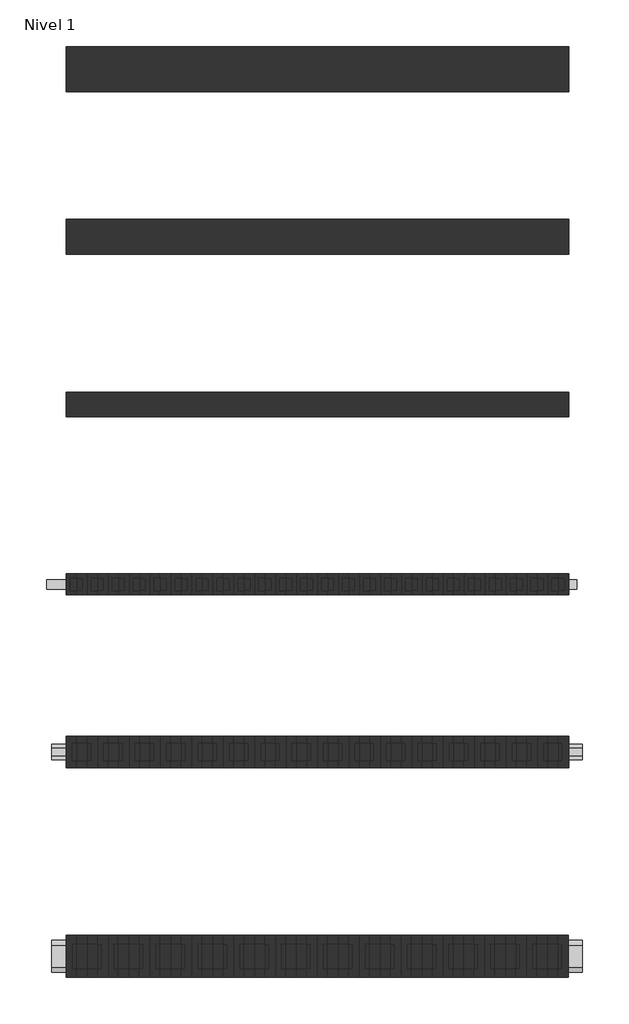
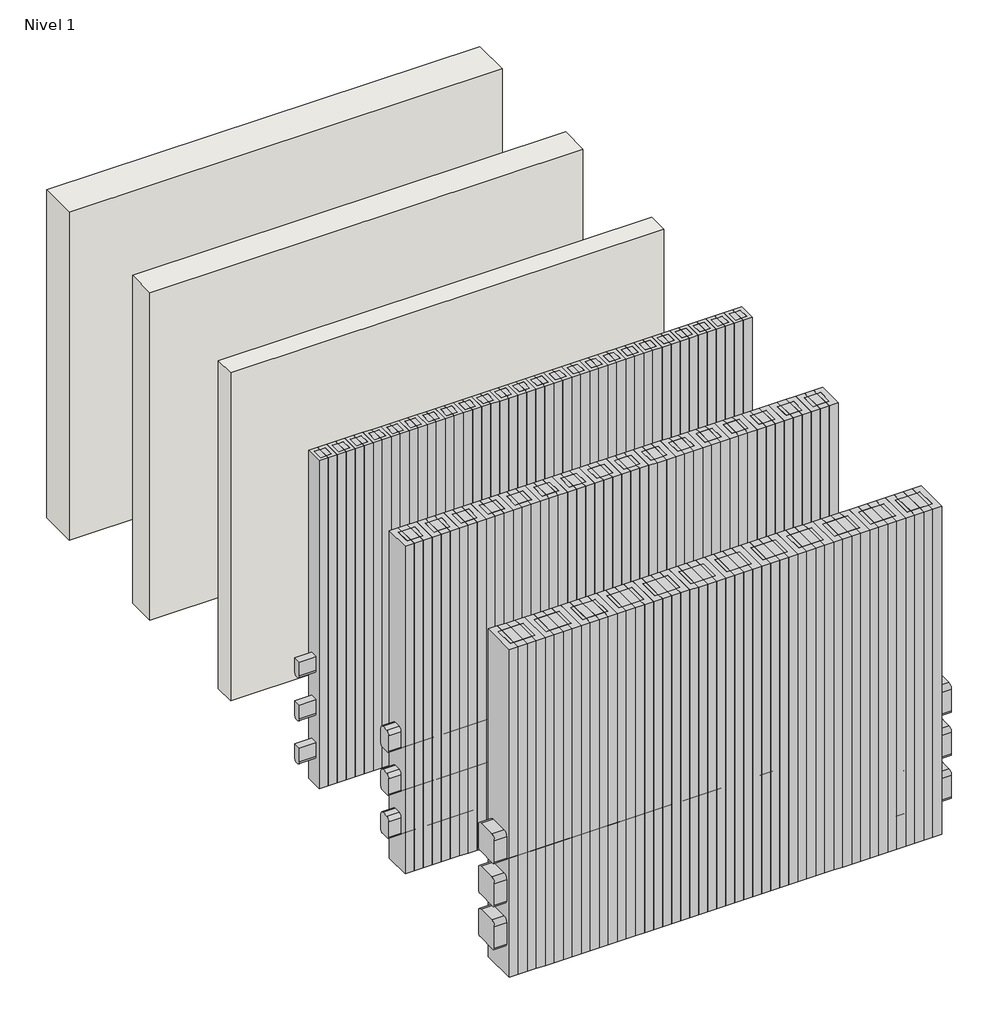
# One storey: 52 columns, 9 beams, 3 walls.
"""IFC4 building model written with IfcOpenShell, lengths in millimetres."""

from ifc_helpers import new_model, si_unit, origin, origin_with_axes, place, context, project, spatial, polyline, outline, extrude, transform, mapped, element, save
from components import vigueta_ladrillo_12_c73e1c85, vigueta_ladrillo_18_f427e08d, vigueta_ladrillo_25_3ea38565, ladrillo_12_2_2_d45fb763, ladrillo_18_3_3_ef613456, ladrillo_25_4_4_74b77b86

model = new_model("IFC4")

# Units and contexts
model_context = context("Model", 3, world=origin())
ifc_project = project(units=[si_unit("LENGTHUNIT", "METRE", prefix="MILLI")], contexts=[model_context])

# Site, building, storey
site = spatial("IfcSite", under=ifc_project)
building = spatial("IfcBuilding", under=site)
storey = spatial("IfcBuildingStorey", under=building, Name="Nivel 1", Elevation=0.0)

# Beams
placement = place(None, origin())
vigueta_ladrillo_12_shape = vigueta_ladrillo_12_c73e1c85(model_context)
element("IfcBeam", 1, ObjectType="Vigueta Ladrillo 12 : Ladrillo Exacta 12", at=placement, inside=storey, context=model_context, shape_type="MappedRepresentation", body=[
    mapped(vigueta_ladrillo_12_shape, transform((-4170.33894, 10977.2625708, 251.6), x_axis=(1.0, 0.0, 0.0), y_axis=(0.0, 1.0, 0.0), z_axis=(0.0, 0.0, 1.0))),
])
element("IfcBeam", 2, ObjectType="Vigueta Ladrillo 12 : Ladrillo Exacta 12", at=placement, inside=storey, context=model_context, shape_type="MappedRepresentation", body=[
    mapped(vigueta_ladrillo_12_shape, transform((-4170.33894, 10977.2625708, 566.6), x_axis=(1.0, 0.0, 0.0), y_axis=(0.0, 1.0, 0.0), z_axis=(0.0, 0.0, 1.0))),
])
element("IfcBeam", 3, ObjectType="Vigueta Ladrillo 12 : Ladrillo Exacta 12", at=placement, inside=storey, context=model_context, shape_type="MappedRepresentation", body=[
    mapped(vigueta_ladrillo_12_shape, transform((-4170.33894, 10977.2625708, 881.6), x_axis=(1.0, 0.0, 0.0), y_axis=(0.0, 1.0, 0.0), z_axis=(0.0, 0.0, 1.0))),
])
vigueta_ladrillo_18_shape = vigueta_ladrillo_18_f427e08d(model_context)
element("IfcBeam", 4, ObjectType="Vigueta Ladrillo 18 : Ladrillo Exacta 18", at=placement, inside=storey, context=model_context, shape_type="MappedRepresentation", body=[
    mapped(vigueta_ladrillo_18_shape, transform((-4139.08894, 9977.2625708, 332.5), x_axis=(1.0, 0.0, 0.0), y_axis=(0.0, 1.0, 0.0), z_axis=(0.0, 0.0, 1.0))),
])
element("IfcBeam", 5, ObjectType="Vigueta Ladrillo 18 : Ladrillo Exacta 18", at=placement, inside=storey, context=model_context, shape_type="MappedRepresentation", body=[
    mapped(vigueta_ladrillo_18_shape, transform((-4139.08894, 9977.2625708, 647.5), x_axis=(1.0, 0.0, 0.0), y_axis=(0.0, 1.0, 0.0), z_axis=(0.0, 0.0, 1.0))),
])
element("IfcBeam", 6, ObjectType="Vigueta Ladrillo 18 : Ladrillo Exacta 18", at=placement, inside=storey, context=model_context, shape_type="MappedRepresentation", body=[
    mapped(vigueta_ladrillo_18_shape, transform((-4139.08894, 9977.2625708, 962.5), x_axis=(1.0, 0.0, 0.0), y_axis=(0.0, 1.0, 0.0), z_axis=(0.0, 0.0, 1.0))),
])
vigueta_ladrillo_25_shape = vigueta_ladrillo_25_3ea38565(model_context)
element("IfcBeam", 7, ObjectType="Vigueta Ladrillo 25 : Ladrillo Exacta 25", at=placement, inside=storey, context=model_context, shape_type="MappedRepresentation", body=[
    mapped(vigueta_ladrillo_25_shape, transform((-4139.08894, 8758.4418251, 311.4), x_axis=(1.0, 0.0, 0.0), y_axis=(0.0, 1.0, 0.0), z_axis=(0.0, 0.0, 1.0))),
])
element("IfcBeam", 8, ObjectType="Vigueta Ladrillo 25 : Ladrillo Exacta 25", at=placement, inside=storey, context=model_context, shape_type="MappedRepresentation", body=[
    mapped(vigueta_ladrillo_25_shape, transform((-4139.08894, 8758.4418251, 626.4), x_axis=(1.0, 0.0, 0.0), y_axis=(0.0, 1.0, 0.0), z_axis=(0.0, 0.0, 1.0))),
])
element("IfcBeam", 9, ObjectType="Vigueta Ladrillo 25 : Ladrillo Exacta 25", at=placement, inside=storey, context=model_context, shape_type="MappedRepresentation", body=[
    mapped(vigueta_ladrillo_25_shape, transform((-4139.08894, 8758.4418251, 941.4), x_axis=(1.0, 0.0, 0.0), y_axis=(0.0, 1.0, 0.0), z_axis=(0.0, 0.0, 1.0))),
])

# Columns
ladrillo_12_2_2_shape = ladrillo_12_2_2_d45fb763(model_context)
element("IfcColumn", 10, ObjectType="Ladrillo 12 : 2/2", at=placement, inside=storey, context=model_context, shape_type="MappedRepresentation", body=[
    mapped(ladrillo_12_2_2_shape, transform((-5573.620702, 10977.2625708, 0.0), x_axis=(-1.0, 0.0, 0.0), y_axis=(0.0, -1.0, 0.0), z_axis=(0.0, 0.0, 1.0))),
])
element("IfcColumn", 11, ObjectType="Ladrillo 12 : 2/2", at=placement, inside=storey, context=model_context, shape_type="MappedRepresentation", body=[
    mapped(ladrillo_12_2_2_shape, transform((-5448.620702, 10977.2625708, 0.0), x_axis=(-1.0, 0.0, 0.0), y_axis=(0.0, -1.0, 0.0), z_axis=(0.0, 0.0, 1.0))),
])
element("IfcColumn", 12, ObjectType="Ladrillo 12 : 2/2", at=placement, inside=storey, context=model_context, shape_type="MappedRepresentation", body=[
    mapped(ladrillo_12_2_2_shape, transform((-5323.620702, 10977.2625708, 0.0), x_axis=(-1.0, 0.0, 0.0), y_axis=(0.0, -1.0, 0.0), z_axis=(0.0, 0.0, 1.0))),
])
element("IfcColumn", 13, ObjectType="Ladrillo 12 : 2/2", at=placement, inside=storey, context=model_context, shape_type="MappedRepresentation", body=[
    mapped(ladrillo_12_2_2_shape, transform((-5198.620702, 10977.2625708, 0.0), x_axis=(-1.0, 0.0, 0.0), y_axis=(0.0, -1.0, 0.0), z_axis=(0.0, 0.0, 1.0))),
])
element("IfcColumn", 14, ObjectType="Ladrillo 12 : 2/2", at=placement, inside=storey, context=model_context, shape_type="MappedRepresentation", body=[
    mapped(ladrillo_12_2_2_shape, transform((-5073.620702, 10977.2625708, 0.0), x_axis=(-1.0, 0.0, 0.0), y_axis=(0.0, -1.0, 0.0), z_axis=(0.0, 0.0, 1.0))),
])
element("IfcColumn", 15, ObjectType="Ladrillo 12 : 2/2", at=placement, inside=storey, context=model_context, shape_type="MappedRepresentation", body=[
    mapped(ladrillo_12_2_2_shape, transform((-4948.620702, 10977.2625708, 0.0), x_axis=(-1.0, 0.0, 0.0), y_axis=(0.0, -1.0, 0.0), z_axis=(0.0, 0.0, 1.0))),
])
element("IfcColumn", 16, ObjectType="Ladrillo 12 : 2/2", at=placement, inside=storey, context=model_context, shape_type="MappedRepresentation", body=[
    mapped(ladrillo_12_2_2_shape, transform((-4823.620702, 10977.2625708, 0.0), x_axis=(-1.0, 0.0, 0.0), y_axis=(0.0, -1.0, 0.0), z_axis=(0.0, 0.0, 1.0))),
])
element("IfcColumn", 17, ObjectType="Ladrillo 12 : 2/2", at=placement, inside=storey, context=model_context, shape_type="MappedRepresentation", body=[
    mapped(ladrillo_12_2_2_shape, transform((-4698.620702, 10977.2625708, 0.0), x_axis=(-1.0, 0.0, 0.0), y_axis=(0.0, -1.0, 0.0), z_axis=(0.0, 0.0, 1.0))),
])
element("IfcColumn", 18, ObjectType="Ladrillo 12 : 2/2", at=placement, inside=storey, context=model_context, shape_type="MappedRepresentation", body=[
    mapped(ladrillo_12_2_2_shape, transform((-4573.620702, 10977.2625708, 0.0), x_axis=(-1.0, 0.0, 0.0), y_axis=(0.0, -1.0, 0.0), z_axis=(0.0, 0.0, 1.0))),
])
element("IfcColumn", 19, ObjectType="Ladrillo 12 : 2/2", at=placement, inside=storey, context=model_context, shape_type="MappedRepresentation", body=[
    mapped(ladrillo_12_2_2_shape, transform((-4448.620702, 10977.2625708, 0.0), x_axis=(-1.0, 0.0, 0.0), y_axis=(0.0, -1.0, 0.0), z_axis=(0.0, 0.0, 1.0))),
])
element("IfcColumn", 20, ObjectType="Ladrillo 12 : 2/2", at=placement, inside=storey, context=model_context, shape_type="MappedRepresentation", body=[
    mapped(ladrillo_12_2_2_shape, transform((-4323.620702, 10977.2625708, 0.0), x_axis=(-1.0, 0.0, 0.0), y_axis=(0.0, -1.0, 0.0), z_axis=(0.0, 0.0, 1.0))),
])
element("IfcColumn", 21, ObjectType="Ladrillo 12 : 2/2", at=placement, inside=storey, context=model_context, shape_type="MappedRepresentation", body=[
    mapped(ladrillo_12_2_2_shape, transform((-4198.620702, 10977.2625708, 0.0), x_axis=(-1.0, 0.0, 0.0), y_axis=(0.0, -1.0, 0.0), z_axis=(0.0, 0.0, 1.0))),
])
element("IfcColumn", 22, ObjectType="Ladrillo 12 : 2/2", at=placement, inside=storey, context=model_context, shape_type="MappedRepresentation", body=[
    mapped(ladrillo_12_2_2_shape, transform((-4073.620702, 10977.2625708, 0.0), x_axis=(-1.0, 0.0, 0.0), y_axis=(0.0, -1.0, 0.0), z_axis=(0.0, 0.0, 1.0))),
])
element("IfcColumn", 23, ObjectType="Ladrillo 12 : 2/2", at=placement, inside=storey, context=model_context, shape_type="MappedRepresentation", body=[
    mapped(ladrillo_12_2_2_shape, transform((-3948.620702, 10977.2625708, 0.0), x_axis=(-1.0, 0.0, 0.0), y_axis=(0.0, -1.0, 0.0), z_axis=(0.0, 0.0, 1.0))),
])
element("IfcColumn", 24, ObjectType="Ladrillo 12 : 2/2", at=placement, inside=storey, context=model_context, shape_type="MappedRepresentation", body=[
    mapped(ladrillo_12_2_2_shape, transform((-3823.620702, 10977.2625708, 0.0), x_axis=(-1.0, 0.0, 0.0), y_axis=(0.0, -1.0, 0.0), z_axis=(0.0, 0.0, 1.0))),
])
element("IfcColumn", 25, ObjectType="Ladrillo 12 : 2/2", at=placement, inside=storey, context=model_context, shape_type="MappedRepresentation", body=[
    mapped(ladrillo_12_2_2_shape, transform((-3698.620702, 10977.2625708, 0.0), x_axis=(-1.0, 0.0, 0.0), y_axis=(0.0, -1.0, 0.0), z_axis=(0.0, 0.0, 1.0))),
])
element("IfcColumn", 26, ObjectType="Ladrillo 12 : 2/2", at=placement, inside=storey, context=model_context, shape_type="MappedRepresentation", body=[
    mapped(ladrillo_12_2_2_shape, transform((-3573.620702, 10977.2625708, 0.0), x_axis=(-1.0, 0.0, 0.0), y_axis=(0.0, -1.0, 0.0), z_axis=(0.0, 0.0, 1.0))),
])
element("IfcColumn", 27, ObjectType="Ladrillo 12 : 2/2", at=placement, inside=storey, context=model_context, shape_type="MappedRepresentation", body=[
    mapped(ladrillo_12_2_2_shape, transform((-3448.620702, 10977.2625708, 0.0), x_axis=(-1.0, 0.0, 0.0), y_axis=(0.0, -1.0, 0.0), z_axis=(0.0, 0.0, 1.0))),
])
element("IfcColumn", 28, ObjectType="Ladrillo 12 : 2/2", at=placement, inside=storey, context=model_context, shape_type="MappedRepresentation", body=[
    mapped(ladrillo_12_2_2_shape, transform((-3323.620702, 10977.2625708, 0.0), x_axis=(-1.0, 0.0, 0.0), y_axis=(0.0, -1.0, 0.0), z_axis=(0.0, 0.0, 1.0))),
])
element("IfcColumn", 29, ObjectType="Ladrillo 12 : 2/2", at=placement, inside=storey, context=model_context, shape_type="MappedRepresentation", body=[
    mapped(ladrillo_12_2_2_shape, transform((-3198.620702, 10977.2625708, 0.0), x_axis=(-1.0, 0.0, 0.0), y_axis=(0.0, -1.0, 0.0), z_axis=(0.0, 0.0, 1.0))),
])
element("IfcColumn", 30, ObjectType="Ladrillo 12 : 2/2", at=placement, inside=storey, context=model_context, shape_type="MappedRepresentation", body=[
    mapped(ladrillo_12_2_2_shape, transform((-3073.620702, 10977.2625708, 0.0), x_axis=(-1.0, 0.0, 0.0), y_axis=(0.0, -1.0, 0.0), z_axis=(0.0, 0.0, 1.0))),
])
element("IfcColumn", 31, ObjectType="Ladrillo 12 : 2/2", at=placement, inside=storey, context=model_context, shape_type="MappedRepresentation", body=[
    mapped(ladrillo_12_2_2_shape, transform((-2948.620702, 10977.2625708, 0.0), x_axis=(-1.0, 0.0, 0.0), y_axis=(0.0, -1.0, 0.0), z_axis=(0.0, 0.0, 1.0))),
])
element("IfcColumn", 32, ObjectType="Ladrillo 12 : 2/2", at=placement, inside=storey, context=model_context, shape_type="MappedRepresentation", body=[
    mapped(ladrillo_12_2_2_shape, transform((-2823.620702, 10977.2625708, 0.0), x_axis=(-1.0, 0.0, 0.0), y_axis=(0.0, -1.0, 0.0), z_axis=(0.0, 0.0, 1.0))),
])
element("IfcColumn", 33, ObjectType="Ladrillo 12 : 2/2", at=placement, inside=storey, context=model_context, shape_type="MappedRepresentation", body=[
    mapped(ladrillo_12_2_2_shape, transform((-2698.620702, 10977.2625708, 0.0), x_axis=(-1.0, 0.0, 0.0), y_axis=(0.0, -1.0, 0.0), z_axis=(0.0, 0.0, 1.0))),
])
ladrillo_18_3_3_shape = ladrillo_18_3_3_ef613456(model_context)
element("IfcColumn", 34, ObjectType="Ladrillo 18 : 3/3", at=placement, inside=storey, context=model_context, shape_type="MappedRepresentation", body=[
    mapped(ladrillo_18_3_3_shape, transform((-5542.370702, 9977.2625708, 0.0), x_axis=(-1.0, 0.0, 0.0), y_axis=(0.0, -1.0, 0.0), z_axis=(0.0, 0.0, 1.0))),
])
element("IfcColumn", 35, ObjectType="Ladrillo 18 : 3/3", at=placement, inside=storey, context=model_context, shape_type="MappedRepresentation", body=[
    mapped(ladrillo_18_3_3_shape, transform((-5354.870702, 9977.2625708, 0.0), x_axis=(-1.0, 0.0, 0.0), y_axis=(0.0, -1.0, 0.0), z_axis=(0.0, 0.0, 1.0))),
])
element("IfcColumn", 36, ObjectType="Ladrillo 18 : 3/3", at=placement, inside=storey, context=model_context, shape_type="MappedRepresentation", body=[
    mapped(ladrillo_18_3_3_shape, transform((-5167.370702, 9977.2625708, 0.0), x_axis=(-1.0, 0.0, 0.0), y_axis=(0.0, -1.0, 0.0), z_axis=(0.0, 0.0, 1.0))),
])
element("IfcColumn", 37, ObjectType="Ladrillo 18 : 3/3", at=placement, inside=storey, context=model_context, shape_type="MappedRepresentation", body=[
    mapped(ladrillo_18_3_3_shape, transform((-4979.870702, 9977.2625708, 0.0), x_axis=(-1.0, 0.0, 0.0), y_axis=(0.0, -1.0, 0.0), z_axis=(0.0, 0.0, 1.0))),
])
element("IfcColumn", 38, ObjectType="Ladrillo 18 : 3/3", at=placement, inside=storey, context=model_context, shape_type="MappedRepresentation", body=[
    mapped(ladrillo_18_3_3_shape, transform((-4792.370702, 9977.2625708, 0.0), x_axis=(-1.0, 0.0, 0.0), y_axis=(0.0, -1.0, 0.0), z_axis=(0.0, 0.0, 1.0))),
])
element("IfcColumn", 39, ObjectType="Ladrillo 18 : 3/3", at=placement, inside=storey, context=model_context, shape_type="MappedRepresentation", body=[
    mapped(ladrillo_18_3_3_shape, transform((-4604.870702, 9977.2625708, 0.0), x_axis=(-1.0, 0.0, 0.0), y_axis=(0.0, -1.0, 0.0), z_axis=(0.0, 0.0, 1.0))),
])
element("IfcColumn", 40, ObjectType="Ladrillo 18 : 3/3", at=placement, inside=storey, context=model_context, shape_type="MappedRepresentation", body=[
    mapped(ladrillo_18_3_3_shape, transform((-4417.370702, 9977.2625708, 0.0), x_axis=(-1.0, 0.0, 0.0), y_axis=(0.0, -1.0, 0.0), z_axis=(0.0, 0.0, 1.0))),
])
element("IfcColumn", 41, ObjectType="Ladrillo 18 : 3/3", at=placement, inside=storey, context=model_context, shape_type="MappedRepresentation", body=[
    mapped(ladrillo_18_3_3_shape, transform((-4229.870702, 9977.2625708, 0.0), x_axis=(-1.0, 0.0, 0.0), y_axis=(0.0, -1.0, 0.0), z_axis=(0.0, 0.0, 1.0))),
])
element("IfcColumn", 42, ObjectType="Ladrillo 18 : 3/3", at=placement, inside=storey, context=model_context, shape_type="MappedRepresentation", body=[
    mapped(ladrillo_18_3_3_shape, transform((-4042.370702, 9977.2625708, 0.0), x_axis=(-1.0, 0.0, 0.0), y_axis=(0.0, -1.0, 0.0), z_axis=(0.0, 0.0, 1.0))),
])
element("IfcColumn", 43, ObjectType="Ladrillo 18 : 3/3", at=placement, inside=storey, context=model_context, shape_type="MappedRepresentation", body=[
    mapped(ladrillo_18_3_3_shape, transform((-3854.870702, 9977.2625708, 0.0), x_axis=(-1.0, 0.0, 0.0), y_axis=(0.0, -1.0, 0.0), z_axis=(0.0, 0.0, 1.0))),
])
element("IfcColumn", 44, ObjectType="Ladrillo 18 : 3/3", at=placement, inside=storey, context=model_context, shape_type="MappedRepresentation", body=[
    mapped(ladrillo_18_3_3_shape, transform((-3667.370702, 9977.2625708, 0.0), x_axis=(-1.0, 0.0, 0.0), y_axis=(0.0, -1.0, 0.0), z_axis=(0.0, 0.0, 1.0))),
])
element("IfcColumn", 45, ObjectType="Ladrillo 18 : 3/3", at=placement, inside=storey, context=model_context, shape_type="MappedRepresentation", body=[
    mapped(ladrillo_18_3_3_shape, transform((-3479.870702, 9977.2625708, 0.0), x_axis=(-1.0, 0.0, 0.0), y_axis=(0.0, -1.0, 0.0), z_axis=(0.0, 0.0, 1.0))),
])
element("IfcColumn", 46, ObjectType="Ladrillo 18 : 3/3", at=placement, inside=storey, context=model_context, shape_type="MappedRepresentation", body=[
    mapped(ladrillo_18_3_3_shape, transform((-3292.370702, 9977.2625708, 0.0), x_axis=(-1.0, 0.0, 0.0), y_axis=(0.0, -1.0, 0.0), z_axis=(0.0, 0.0, 1.0))),
])
element("IfcColumn", 47, ObjectType="Ladrillo 18 : 3/3", at=placement, inside=storey, context=model_context, shape_type="MappedRepresentation", body=[
    mapped(ladrillo_18_3_3_shape, transform((-3104.870702, 9977.2625708, 0.0), x_axis=(-1.0, 0.0, 0.0), y_axis=(0.0, -1.0, 0.0), z_axis=(0.0, 0.0, 1.0))),
])
element("IfcColumn", 48, ObjectType="Ladrillo 18 : 3/3", at=placement, inside=storey, context=model_context, shape_type="MappedRepresentation", body=[
    mapped(ladrillo_18_3_3_shape, transform((-2917.370702, 9977.2625708, 0.0), x_axis=(-1.0, 0.0, 0.0), y_axis=(0.0, -1.0, 0.0), z_axis=(0.0, 0.0, 1.0))),
])
element("IfcColumn", 49, ObjectType="Ladrillo 18 : 3/3", at=placement, inside=storey, context=model_context, shape_type="MappedRepresentation", body=[
    mapped(ladrillo_18_3_3_shape, transform((-2729.870702, 9977.2625708, 0.0), x_axis=(-1.0, 0.0, 0.0), y_axis=(0.0, -1.0, 0.0), z_axis=(0.0, 0.0, 1.0))),
])
ladrillo_25_4_4_shape = ladrillo_25_4_4_74b77b86(model_context)
element("IfcColumn", 50, ObjectType="Ladrillo 25 : 4/4", at=placement, inside=storey, context=model_context, shape_type="MappedRepresentation", body=[
    mapped(ladrillo_25_4_4_shape, transform((-5511.2497558, 8758.4418251, 0.0), x_axis=(-1.0, 0.0, 0.0), y_axis=(0.0, -1.0, 0.0), z_axis=(0.0, 0.0, 1.0))),
])
element("IfcColumn", 51, ObjectType="Ladrillo 25 : 4/4", at=placement, inside=storey, context=model_context, shape_type="MappedRepresentation", body=[
    mapped(ladrillo_25_4_4_shape, transform((-5261.5078634, 8758.4418251, 0.0), x_axis=(-1.0, 0.0, 0.0), y_axis=(0.0, -1.0, 0.0), z_axis=(0.0, 0.0, 1.0))),
])
element("IfcColumn", 52, ObjectType="Ladrillo 25 : 4/4", at=placement, inside=storey, context=model_context, shape_type="MappedRepresentation", body=[
    mapped(ladrillo_25_4_4_shape, transform((-5011.7659711, 8758.4418251, 0.0), x_axis=(-1.0, 0.0, 0.0), y_axis=(0.0, -1.0, 0.0), z_axis=(0.0, 0.0, 1.0))),
])
element("IfcColumn", 53, ObjectType="Ladrillo 25 : 4/4", at=placement, inside=storey, context=model_context, shape_type="MappedRepresentation", body=[
    mapped(ladrillo_25_4_4_shape, transform((-4762.0240787, 8758.4418251, 0.0), x_axis=(-1.0, 0.0, 0.0), y_axis=(0.0, -1.0, 0.0), z_axis=(0.0, 0.0, 1.0))),
])
element("IfcColumn", 54, ObjectType="Ladrillo 25 : 4/4", at=placement, inside=storey, context=model_context, shape_type="MappedRepresentation", body=[
    mapped(ladrillo_25_4_4_shape, transform((-4512.2821864, 8758.4418251, 0.0), x_axis=(-1.0, 0.0, 0.0), y_axis=(0.0, -1.0, 0.0), z_axis=(0.0, 0.0, 1.0))),
])
element("IfcColumn", 55, ObjectType="Ladrillo 25 : 4/4", at=placement, inside=storey, context=model_context, shape_type="MappedRepresentation", body=[
    mapped(ladrillo_25_4_4_shape, transform((-4262.5402941, 8758.4418251, 0.0), x_axis=(-1.0, 0.0, 0.0), y_axis=(0.0, -1.0, 0.0), z_axis=(0.0, 0.0, 1.0))),
])
element("IfcColumn", 56, ObjectType="Ladrillo 25 : 4/4", at=placement, inside=storey, context=model_context, shape_type="MappedRepresentation", body=[
    mapped(ladrillo_25_4_4_shape, transform((-4012.7984017, 8758.4418251, 0.0), x_axis=(-1.0, 0.0, 0.0), y_axis=(0.0, -1.0, 0.0), z_axis=(0.0, 0.0, 1.0))),
])
element("IfcColumn", 57, ObjectType="Ladrillo 25 : 4/4", at=placement, inside=storey, context=model_context, shape_type="MappedRepresentation", body=[
    mapped(ladrillo_25_4_4_shape, transform((-3763.0565094, 8758.4418251, 0.0), x_axis=(-1.0, 0.0, 0.0), y_axis=(0.0, -1.0, 0.0), z_axis=(0.0, 0.0, 1.0))),
])
element("IfcColumn", 58, ObjectType="Ladrillo 25 : 4/4", at=placement, inside=storey, context=model_context, shape_type="MappedRepresentation", body=[
    mapped(ladrillo_25_4_4_shape, transform((-3513.314617, 8758.4418251, 0.0), x_axis=(-1.0, 0.0, 0.0), y_axis=(0.0, -1.0, 0.0), z_axis=(0.0, 0.0, 1.0))),
])
element("IfcColumn", 59, ObjectType="Ladrillo 25 : 4/4", at=placement, inside=storey, context=model_context, shape_type="MappedRepresentation", body=[
    mapped(ladrillo_25_4_4_shape, transform((-3263.5727247, 8758.4418251, 0.0), x_axis=(-1.0, 0.0, 0.0), y_axis=(0.0, -1.0, 0.0), z_axis=(0.0, 0.0, 1.0))),
])
element("IfcColumn", 60, ObjectType="Ladrillo 25 : 4/4", at=placement, inside=storey, context=model_context, shape_type="MappedRepresentation", body=[
    mapped(ladrillo_25_4_4_shape, transform((-3013.8308323, 8758.4418251, 0.0), x_axis=(-1.0, 0.0, 0.0), y_axis=(0.0, -1.0, 0.0), z_axis=(0.0, 0.0, 1.0))),
])
element("IfcColumn", 61, ObjectType="Ladrillo 25 : 4/4", at=placement, inside=storey, context=model_context, shape_type="MappedRepresentation", body=[
    mapped(ladrillo_25_4_4_shape, transform((-2764.08894, 8758.4418251, 0.0), x_axis=(-1.0, 0.0, 0.0), y_axis=(0.0, -1.0, 0.0), z_axis=(0.0, 0.0, 1.0))),
])

# Walls
element("IfcWall", 62, ObjectType="Ladrillo Exacta 18", at=placement, inside=storey, context=model_context, shape_type="SweptSolid", body=[
    extrude(outline(polyline([(-2636.120702, 12945.9118621), (-5636.120702, 12945.9118621), (-5636.120702, 13153.4118621), (-2636.120702, 13153.4118621), (-2636.120702, 12945.9118621)])), origin_with_axes(), (0.0, 0.0, 1.0), 2400.0),
])
element("IfcWall", 63, ObjectType="Ladrillo Exacta 12", at=placement, inside=storey, context=model_context, shape_type="SweptSolid", body=[
    extrude(outline(polyline([(-2636.120702, 11977.1618621), (-5636.120702, 11977.1618621), (-5636.120702, 12122.1618621), (-2636.120702, 12122.1618621), (-2636.120702, 11977.1618621)])), origin_with_axes(), (0.0, 0.0, 1.0), 2400.0),
])
element("IfcWall", 64, ObjectType="Ladrillo Exacta 25", at=placement, inside=storey, context=model_context, shape_type="SweptSolid", body=[
    extrude(outline(polyline([(-2636.120702, 13914.6618621), (-5636.120702, 13914.6618621), (-5636.120702, 14184.6618621), (-2636.120702, 14184.6618621), (-2636.120702, 13914.6618621)])), origin_with_axes(), (0.0, 0.0, 1.0), 2400.0),
])

save(model, "model.ifc")
